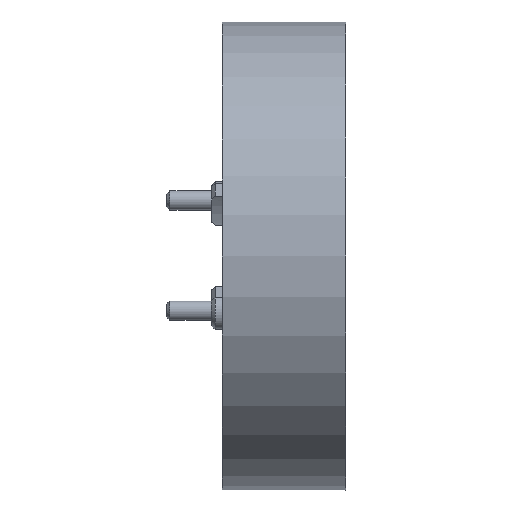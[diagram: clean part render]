
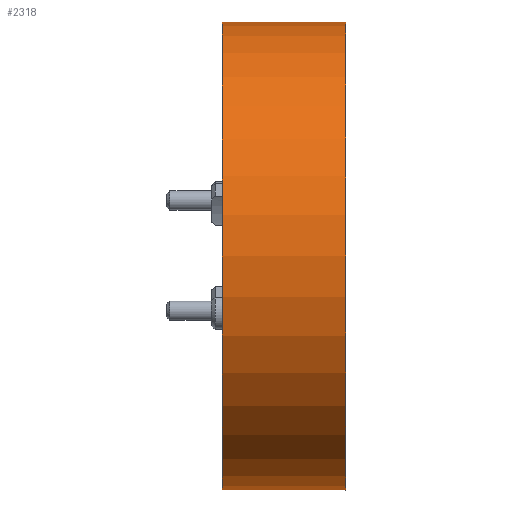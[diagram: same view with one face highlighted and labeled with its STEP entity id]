
A CAD part, left-side view. The second image highlights one B-rep face of the part: STEP entity #2318.
In plain terms, the highlighted cylindrical face has radius 64.5 mm (diameter 129 mm), a full revolution.
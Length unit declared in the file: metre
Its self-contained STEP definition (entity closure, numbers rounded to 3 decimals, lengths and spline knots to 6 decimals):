
#45=CYLINDRICAL_SURFACE('',#2564,0.0645);
#183=CIRCLE('',#2537,0.0645);
#195=CIRCLE('',#2565,0.0645);
#451=ORIENTED_EDGE('',*,*,#1087,.T.);
#452=ORIENTED_EDGE('',*,*,#1132,.F.);
#1087=EDGE_CURVE('',#1442,#1442,#183,.T.);
#1132=EDGE_CURVE('',#1470,#1470,#195,.T.);
#1442=VERTEX_POINT('',#3777);
#1470=VERTEX_POINT('',#3862);
#1964=EDGE_LOOP('',(#451));
#1965=EDGE_LOOP('',(#452));
#2122=FACE_BOUND('',#1964,.T.);
#2123=FACE_BOUND('',#1965,.T.);
#2318=ADVANCED_FACE('',(#2122,#2123),#45,.T.);
#2537=AXIS2_PLACEMENT_3D('',#3776,#2956,#2957);
#2564=AXIS2_PLACEMENT_3D('',#3860,#3039,#3040);
#2565=AXIS2_PLACEMENT_3D('',#3861,#3041,#3042);
#2956=DIRECTION('',(-0.001,-1.,0.));
#2957=DIRECTION('',(1.,-0.001,0.));
#3039=DIRECTION('',(-0.001,-1.,0.));
#3040=DIRECTION('',(1.,-0.001,0.));
#3041=DIRECTION('',(-0.001,-1.,0.));
#3042=DIRECTION('',(1.,-0.001,0.));
#3776=CARTESIAN_POINT('',(-0.020457,0.079827,-0.026258));
#3777=CARTESIAN_POINT('',(0.044043,0.079785,-0.026258));
#3860=CARTESIAN_POINT('',(-0.020459,0.075827,-0.026259));
#3861=CARTESIAN_POINT('',(-0.020479,0.045827,-0.026264));
#3862=CARTESIAN_POINT('',(0.044021,0.045785,-0.026264));
